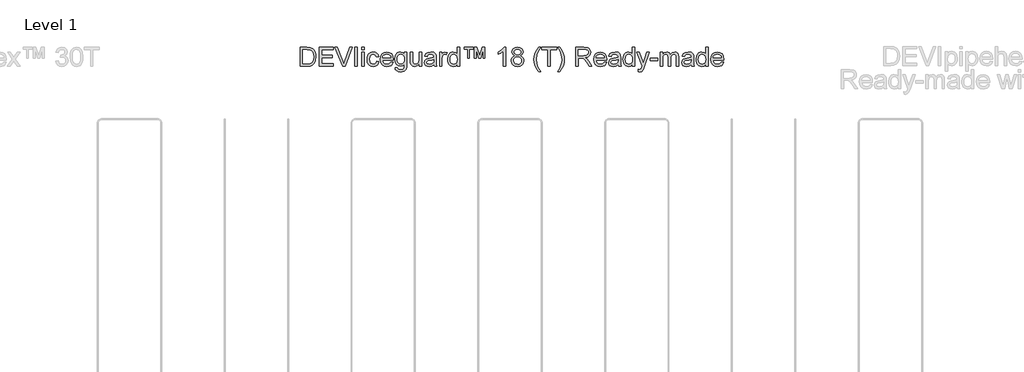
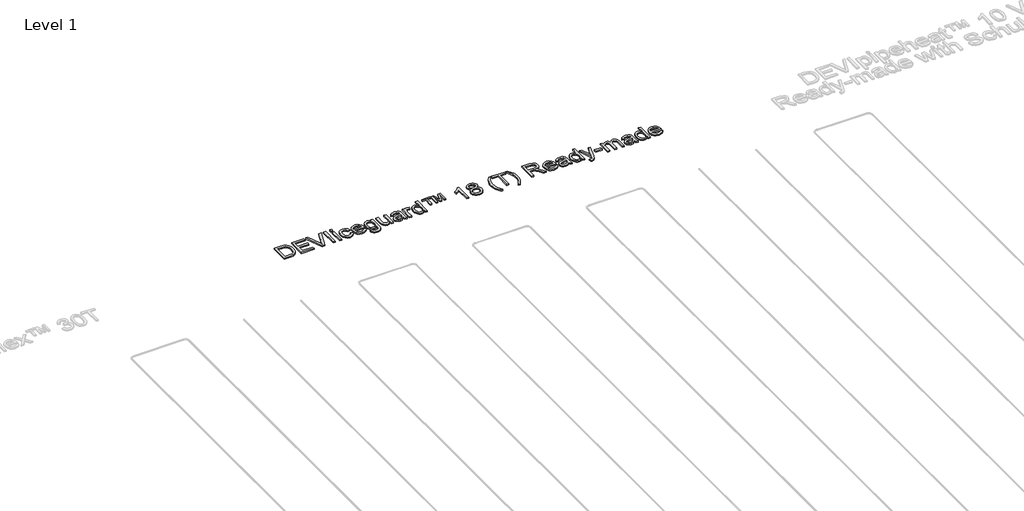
# One storey, part 24 of 26: 1 proxy.
"""IFC4 building model written with IfcOpenShell, lengths in millimetres."""

import ifcopenshell
import ifcopenshell.guid

model = None  # the IFC model being written
_history = None  # IfcOwnerHistory: only IFC2X3 demands one
_inside = {}  # id of a spatial element -> (the spatial element, [elements in it])
_under = {}  # id of a project, library or spatial element -> (it, [spatial elements below it])
_declared = {}  # id of a project -> (the project, [libraries it declares])
_typed = {}  # id of a type object -> (the type object, [elements of that type])
_made_of = {}  # id of a material, layer set ... -> (it, [elements and type objects made of it])


def new_model(schema):
    """Start an empty IFC model of exactly this schema.

    Asked for "IFC4X3", IfcOpenShell would pick the latest addendum, in which some entities
    have other attributes; the version numbers below select the first issue.
    IFC2X3 requires an IfcOwnerHistory on every rooted entity: one is made here for all.
    """
    global model, _history
    if schema == "IFC4X3":
        model = ifcopenshell.file(schema_version=(4, 3, 0, 0))
    else:
        model = ifcopenshell.file(schema=schema)
    _inside.clear()
    _under.clear()
    _declared.clear()
    _typed.clear()
    _made_of.clear()
    _history = None
    if model.schema == "IFC2X3":
        org = make("IfcOrganization", Name="unknown")
        user = make(
            "IfcPersonAndOrganization",
            ThePerson=make("IfcPerson", FamilyName="unknown"),
            TheOrganization=org,
        )
        app = make(
            "IfcApplication",
            ApplicationDeveloper=org,
            Version="unknown",
            ApplicationFullName="unknown",
            ApplicationIdentifier="unknown",
        )
        _history = make(
            "IfcOwnerHistory",
            OwningUser=user,
            OwningApplication=app,
            ChangeAction="ADDED",
            CreationDate=0,
        )
    return model


def make(cls, **values):
    """One entity of the class cls with the attributes given. An attribute that is None is left unset."""
    return model.create_entity(
        cls, **{name: value for name, value in values.items() if value is not None}
    )


def rooted(cls, **values):
    """An entity with a GlobalId (a new one), such as an element, a storey or a relation."""
    return make(cls, GlobalId=ifcopenshell.guid.new(), OwnerHistory=_history, **values)


def si_unit(unit_type, name, prefix=None):
    """IfcSIUnit, for example si_unit("LENGTHUNIT", "METRE", prefix="MILLI")."""
    return make("IfcSIUnit", UnitType=unit_type, Prefix=prefix, Name=name)


def assignment(units):
    """IfcUnitAssignment: the units of a project."""
    return None if units is None else make("IfcUnitAssignment", Units=units)


def point(xyz):
    """IfcCartesianPoint."""
    return None if xyz is None else make("IfcCartesianPoint", Coordinates=xyz)


def direction(xyz):
    """IfcDirection."""
    return None if xyz is None else make("IfcDirection", DirectionRatios=xyz)


def frame(location, z_axis=None, x_axis=None):
    """IfcAxis2Placement3D, a coordinate frame: its origin and axes. An axis left out is left unset."""
    return make(
        "IfcAxis2Placement3D",
        Location=point(location),
        Axis=direction(z_axis),
        RefDirection=direction(x_axis),
    )


def origin():
    """The frame at (0, 0, 0) with its axes left unset."""
    return frame((0.0, 0.0, 0.0))


def origin_with_axes():
    """The frame at (0, 0, 0) with the z axis (0, 0, 1) and the x axis (1, 0, 0) written out."""
    return frame((0.0, 0.0, 0.0), z_axis=(0.0, 0.0, 1.0), x_axis=(1.0, 0.0, 0.0))


def place(relative_to, where):
    """IfcLocalPlacement: puts the frame where relative to a parent placement (None: the world)."""
    return make(
        "IfcLocalPlacement", PlacementRelTo=relative_to, RelativePlacement=where
    )


def context(
    kind, dimensions, precision=None, world=None, true_north=None, identifier=None
):
    """IfcGeometricRepresentationContext, for example the 3D "Model" context."""
    return make(
        "IfcGeometricRepresentationContext",
        ContextIdentifier=identifier,
        ContextType=kind,
        CoordinateSpaceDimension=dimensions,
        Precision=precision,
        WorldCoordinateSystem=world,
        TrueNorth=true_north,
    )


def project(units=None, contexts=None):
    """IfcProject with its units and contexts."""
    return rooted(
        "IfcProject",
        Name="project",
        RepresentationContexts=contexts,
        UnitsInContext=assignment(units),
    )


def spatial(cls, under=None, at=None, **own):
    """A site, building, storey or space (cls), placed at a placement, below another one or the project."""
    s = rooted(cls, ObjectPlacement=at, **own)
    if under is not None:
        _under.setdefault(under.id(), (under, []))[1].append(s)
    return s


def polyline(points):
    """IfcPolyline through the points."""
    return make("IfcPolyline", Points=[point(p) for p in points])


def outline(outer, holes=None, kind="AREA"):
    """IfcArbitraryClosedProfileDef: a profile drawn as a closed curve; with holes, ...WithVoids."""
    if holes is None:
        return make("IfcArbitraryClosedProfileDef", ProfileType=kind, OuterCurve=outer)
    return make(
        "IfcArbitraryProfileDefWithVoids",
        ProfileType=kind,
        OuterCurve=outer,
        InnerCurves=holes,
    )


def extrude(swept, where, along, depth):
    """IfcExtrudedAreaSolid: the profile swept, set in the frame where, extruded along a direction by depth."""
    return make(
        "IfcExtrudedAreaSolid",
        SweptArea=swept,
        Position=where,
        ExtrudedDirection=direction(along),
        Depth=depth,
    )


def shape(context_of_items, identifier, shape_type, items):
    """IfcShapeRepresentation: the items that make up one representation, for example the "Body"."""
    return make(
        "IfcShapeRepresentation",
        ContextOfItems=context_of_items,
        RepresentationIdentifier=identifier,
        RepresentationType=shape_type,
        Items=items,
    )


def made_of(thing, what):
    """Note that an element or type object is made of a material, layer set ...; save() writes the relation."""
    if what is not None:
        _made_of.setdefault(what.id(), (what, []))[1].append(thing)
    return thing


def element(
    cls,
    number,
    at=None,
    inside=None,
    cuts=None,
    type_object=None,
    material=None,
    context=None,
    identifier="Body",
    shape_type=None,
    held_by="IfcProductDefinitionShape",
    body=None,
    shapes=None,
    **own,
):
    """One element of the class cls, such as IfcWall. Its Tag is "e" and its number.

    at: its placement. inside: the storey or other place that contains it. cuts: it is an
    opening in that element (IfcRelVoidsElement). A single representation is given by context,
    identifier, shape_type and body (its items); several are given by shapes. held_by: the class
    of the entity that holds the representations. save() writes the other relations.
    """
    e = rooted(cls, Tag="e%d" % number, ObjectPlacement=at, **own)
    if body is not None:
        shapes = [shape(context, identifier, shape_type, body)]
    if shapes is not None:
        e.Representation = make(held_by, Representations=shapes)
    if inside is not None:
        _inside.setdefault(inside.id(), (inside, []))[1].append(e)
    if cuts is not None:
        rooted(
            "IfcRelVoidsElement", RelatingBuildingElement=cuts, RelatedOpeningElement=e
        )
    if type_object is not None:
        _typed.setdefault(type_object.id(), (type_object, []))[1].append(e)
    return made_of(e, material)


def aggregate(whole, parts):
    """IfcRelAggregates: a whole, such as a stair, and the parts it consists of."""
    return rooted("IfcRelAggregates", RelatingObject=whole, RelatedObjects=parts)


def save(model, path):
    """Write the relations noted so far, then the file.

    IfcRelAggregates (storeys below a building ...), IfcRelContainedInSpatialStructure (elements
    in a storey), IfcRelDefinesByType, IfcRelAssociatesMaterial and IfcRelDeclares: one each for
    every whole, place, type object, material and project.
    """
    for whole, parts in _under.values():
        aggregate(whole, parts)
    for where, things in _inside.values():
        rooted(
            "IfcRelContainedInSpatialStructure",
            RelatedElements=things,
            RelatingStructure=where,
        )
    for kind, things in _typed.values():
        rooted("IfcRelDefinesByType", RelatedObjects=things, RelatingType=kind)
    for what, things in _made_of.values():
        rooted("IfcRelAssociatesMaterial", RelatedObjects=things, RelatingMaterial=what)
    for by, libraries in _declared.values():
        rooted("IfcRelDeclares", RelatingContext=by, RelatedDefinitions=libraries)
    model.write(path)


model = new_model("IFC4")

# Units and contexts
model_context = context("Model", 3, world=origin())
ifc_project = project(units=[si_unit("LENGTHUNIT", "METRE", prefix="MILLI")], contexts=[model_context])

# Site, building, storey
site = spatial("IfcSite", under=ifc_project)
building = spatial("IfcBuilding", under=site)
storey = spatial("IfcBuildingStorey", under=building, Name="Level 1", Elevation=0.0)

# Proxy
placement = place(None, origin())
element("IfcBuildingElementProxy", 1, Name="150mm", ObjectType="150mm", at=placement, inside=storey, context=model_context, shape_type="SweptSolid", body=[
    extrude(outline(polyline([(4508.0673037, 2479.2798), (4508.0673037, 2629.9642653), (4560.0490297, 2629.9642653), (4586.9412035, 2627.7937615), (4609.0876996, 2617.014819), (4619.5079571, 2605.5369008), (4626.9299764, 2591.2630794), (4631.3721515, 2574.4692663), (4632.8528765, 2555.431373), (4628.8429628, 2525.0259261), (4618.5422669, 2503.0817651), (4604.7834803, 2489.414949), (4586.7756566, 2481.854974), (4562.5506272, 2479.2798), (4508.0673037, 2479.2798)]), holes=[polyline([(4526.9028619, 2498.1153582), (4560.2329707, 2498.1153582), (4584.4763941, 2500.837685), (4598.45591, 2508.5264187), (4609.9154341, 2527.2332181), (4614.0173184, 2555.7256786), (4612.007763, 2576.253494), (4605.9790968, 2591.4102322), (4597.071754, 2601.8212926), (4586.4261687, 2608.1120748), (4559.7179359, 2611.1287071), (4526.9028619, 2611.1287071), (4526.9028619, 2498.1153582)])]), origin_with_axes(), (0.0, 0.0, 1.0), 10.0),
    extrude(outline(polyline([(4658.751769, 2479.2798), (4658.751769, 2629.9642653), (4767.0562284, 2629.9642653), (4767.0562284, 2611.1287071), (4677.5873271, 2611.1287071), (4677.5873271, 2566.3942565), (4762.3473388, 2566.3942565), (4762.3473388, 2547.5586983), (4677.5873271, 2547.5586983), (4677.5873271, 2498.1153582), (4769.4106731, 2498.1153582), (4769.4106731, 2479.2798), (4658.751769, 2479.2798)])), origin_with_axes(), (0.0, 0.0, 1.0), 10.0),
    extrude(outline(polyline([(4842.1777318, 2479.2798), (4782.2129666, 2629.9642653), (4802.3728999, 2629.9642653), (4842.5088256, 2521.4022885), (4850.6390177, 2496.9381358), (4858.6588452, 2521.4022885), (4898.9051354, 2629.9642653), (4919.0650688, 2629.9642653), (4861.6386893, 2479.2798), (4842.1777318, 2479.2798)])), origin_with_axes(), (0.0, 0.0, 1.0), 10.0),
    extrude(outline(polyline([(4938.9306965, 2479.2798), (4938.9306965, 2629.9642653), (4957.7662547, 2629.9642653), (4957.7662547, 2479.2798), (4938.9306965, 2479.2798)])), origin_with_axes(), (0.0, 0.0, 1.0), 10.0),
    extrude(outline(polyline([(4993.0829262, 2479.2798), (4993.0829262, 2589.9387042), (5011.9184843, 2589.9387042), (5011.9184843, 2479.2798), (4993.0829262, 2479.2798)])), origin_with_axes(), (0.0, 0.0, 1.0), 10.0),
    extrude(outline(polyline([(4993.0829262, 2611.1287071), (4993.0829262, 2629.9642653), (5011.9184843, 2629.9642653), (5011.9184843, 2611.1287071), (4993.0829262, 2611.1287071)])), origin_with_axes(), (0.0, 0.0, 1.0), 10.0),
    extrude(outline(polyline([(5110.8051646, 2519.3053611), (5129.6407228, 2516.9509163), (5124.3892073, 2500.19849), (5114.5207728, 2487.5387508), (5100.9643213, 2479.5787042), (5084.6487548, 2476.9253553), (5064.6129816, 2480.6271678), (5048.9458072, 2491.7326056), (5038.8336508, 2509.7542248), (5035.462932, 2534.2045819), (5036.9022703, 2550.9662053), (5041.2202853, 2565.4929456), (5048.4859547, 2577.2237827), (5058.7682564, 2585.5976966), (5071.0693106, 2590.6192859), (5084.3912374, 2592.293149), (5100.3067322, 2589.9938865), (5113.0308507, 2583.0960991), (5122.1589227, 2571.9676687), (5127.286278, 2556.9764774), (5108.4507199, 2554.6220327), (5099.7135225, 2568.7303072), (5084.5383902, 2573.4575908), (5072.3660947, 2571.1307372), (5062.7045938, 2564.1501763), (5056.4000161, 2552.1388292), (5054.2984902, 2534.7196167), (5056.3540308, 2517.0658795), (5062.5206528, 2505.0131456), (5072.0074097, 2498.0739715), (5084.0233554, 2495.7609134), (5093.7768268, 2497.2048503), (5101.7736617, 2501.5366608), (5107.5907957, 2508.8667095), (5110.8051646, 2519.3053611)])), origin_with_axes(), (0.0, 0.0, 1.0), 10.0),
    extrude(outline(polyline([(5223.5977844, 2512.2420268), (5242.0654605, 2509.887582), (5235.4113949, 2495.9724456), (5224.7934009, 2485.5705822), (5210.4506016, 2479.086662), (5192.6221204, 2476.9253553), (5170.5216095, 2480.654759), (5153.5162643, 2491.8429702), (5142.6729425, 2509.7634219), (5139.0585019, 2533.6895471), (5142.7097307, 2558.4204143), (5153.6634171, 2576.9156816), (5170.4388361, 2588.4487821), (5191.5552626, 2592.293149), (5212.0141, 2588.4579792), (5228.3618562, 2576.9524698), (5239.0810178, 2558.4939907), (5242.6540717, 2533.7999117), (5242.5437071, 2528.7231402), (5157.89406, 2528.7231402), (5161.1544142, 2514.6240627), (5168.7281848, 2504.2589875), (5179.6588786, 2497.8854319), (5192.9900024, 2495.7609134), (5211.4576785, 2499.6972508), (5223.5977844, 2512.2420268)]), holes=[polyline([(5157.89406, 2547.5586983), (5223.8185136, 2547.5586983), (5221.2709307, 2557.5099063), (5216.2769327, 2564.6284229), (5205.2956551, 2571.2502988), (5191.4816862, 2573.4575908), (5178.7851588, 2571.6963558), (5168.2867264, 2566.4126506), (5160.9888673, 2558.1766924), (5157.89406, 2547.5586983)])]), origin_with_axes(), (0.0, 0.0, 1.0), 10.0),
    extrude(outline(polyline([(5256.7807403, 2469.862021), (5275.6162985, 2467.5075762), (5281.7231396, 2457.5747623), (5300.0068748, 2453.3809076), (5319.2838913, 2458.1265853), (5328.4809412, 2471.4439135), (5329.7685282, 2493.4064687), (5316.5063823, 2482.8114672), (5300.3379686, 2479.2798), (5280.9183977, 2483.3908813), (5266.4376427, 2495.7241252), (5257.4291323, 2513.8055253), (5254.4262956, 2535.1610751), (5259.8157668, 2564.3525114), (5266.4100516, 2576.2029102), (5275.4139634, 2585.0090855), (5286.5194011, 2590.4721331), (5299.4182636, 2592.293149), (5316.2212737, 2588.1728706), (5329.7685282, 2575.8120356), (5329.7685282, 2589.9387042), (5348.6040863, 2589.9387042), (5348.6040863, 2494.39975), (5347.3164993, 2472.3406259), (5343.4537384, 2457.8138856), (5336.7996728, 2448.1799759), (5327.1381719, 2440.7993433), (5314.6807678, 2436.1088479), (5299.6389928, 2434.5453494), (5282.1140142, 2436.7480429), (5268.3138409, 2443.3561232), (5259.4616804, 2454.3879845), (5256.7807403, 2469.862021)]), holes=[polyline([(5273.2618537, 2536.4486621), (5275.2714091, 2519.1720039), (5281.3000753, 2507.294014), (5290.363768, 2500.4100221), (5301.4784027, 2498.1153582), (5312.5102641, 2500.3962266), (5321.619942, 2507.2388317), (5327.7313816, 2518.9650703), (5329.7685282, 2535.8968391), (5327.6716008, 2552.2262012), (5321.3808187, 2563.9846294), (5312.1377836, 2571.0893505), (5301.1840972, 2573.4575908), (5290.4281473, 2571.1261387), (5281.4104399, 2564.1317822), (5275.2990003, 2552.5480979), (5273.2618537, 2536.4486621)])]), origin_with_axes(), (0.0, 0.0, 1.0), 10.0),
    extrude(outline(polyline([(5447.4907666, 2479.2798), (5447.4907666, 2498.2992992), (5432.7386986, 2482.2688413), (5413.4984703, 2476.9253553), (5395.7849522, 2480.6777516), (5383.57127, 2490.0955307), (5377.9610695, 2503.9646819), (5376.8574236, 2521.4758649), (5376.8574236, 2589.9387042), (5395.6929817, 2589.9387042), (5395.6929817, 2530.341821), (5396.8334159, 2511.1383808), (5404.2830263, 2499.8627977), (5418.3177244, 2495.7609134), (5434.0446797, 2499.9547682), (5444.4373461, 2511.3775041), (5447.4907666, 2532.3651719), (5447.4907666, 2589.9387042), (5466.3263248, 2589.9387042), (5466.3263248, 2479.2798), (5447.4907666, 2479.2798)])), origin_with_axes(), (0.0, 0.0, 1.0), 10.0),
    extrude(outline(polyline([(5562.8585603, 2493.4064687), (5544.5932193, 2480.6409634), (5524.4148918, 2476.9253553), (5508.674141, 2479.1602384), (5497.0628655, 2485.8648878), (5489.9029622, 2496.046022), (5487.5163277, 2508.7103597), (5491.1215713, 2523.6095805), (5500.5945326, 2534.4253111), (5513.7831022, 2540.6057286), (5530.0802745, 2543.43842), (5562.7481957, 2549.9131431), (5562.8585603, 2554.1069979), (5561.5617763, 2562.5131015), (5557.6714242, 2568.0129373), (5548.971015, 2572.0964274), (5536.8493033, 2573.4575908), (5517.7930159, 2569.8339532), (5508.7063306, 2556.9764774), (5489.8707725, 2559.3309222), (5498.0193587, 2577.725022), (5514.4268957, 2588.5039644), (5539.2773244, 2592.293149), (5562.1044022, 2588.9454228), (5574.9986662, 2580.5393192), (5580.7744135, 2567.7554199), (5581.6941185, 2551.2743065), (5581.6941185, 2527.8402234), (5582.6506117, 2495.1171199), (5586.403008, 2479.2798), (5567.5674499, 2479.2798), (5562.8585603, 2493.4064687)]), holes=[polyline([(5562.8585603, 2531.077585), (5532.4715075, 2525.3018376), (5516.2663056, 2522.2484171), (5508.9270598, 2517.2820101), (5506.3518859, 2510.0347348), (5511.9620863, 2499.8444036), (5528.4248056, 2495.7609134), (5547.4810929, 2500.2674679), (5559.7683516, 2511.175169), (5562.7481957, 2525.743296), (5562.8585603, 2531.077585)])]), origin_with_axes(), (0.0, 0.0, 1.0), 10.0),
    extrude(outline(polyline([(5607.5930109, 2479.2798), (5607.5930109, 2589.9387042), (5624.0741243, 2589.9387042), (5624.0741243, 2573.5679554), (5635.7727718, 2588.6511172), (5647.5449956, 2592.293149), (5666.4541302, 2586.4806134), (5660.163348, 2569.5948299), (5646.9195962, 2573.4575908), (5636.2694125, 2569.7419827), (5629.4819896, 2559.4412868), (5626.4285691, 2537.4419435), (5626.4285691, 2479.2798), (5607.5930109, 2479.2798)])), origin_with_axes(), (0.0, 0.0, 1.0), 10.0),
    extrude(outline(polyline([(5746.5052523, 2479.2798), (5746.5052523, 2497.0485004), (5734.0432497, 2481.9561416), (5716.8171753, 2476.9253553), (5704.6402813, 2478.7463711), (5693.4934568, 2484.2094188), (5684.0572836, 2492.9328206), (5677.0123434, 2504.534899), (5672.6253506, 2518.5466045), (5671.1630197, 2534.4988875), (5676.5524909, 2564.4812701), (5683.2847314, 2576.3730556), (5692.7025105, 2585.1194501), (5704.0930568, 2590.4997242), (5716.7435989, 2592.293149), (5734.1076291, 2587.1611951), (5746.5052523, 2573.8254728), (5746.5052523, 2629.9642653), (5765.3408105, 2629.9642653), (5765.3408105, 2479.2798), (5746.5052523, 2479.2798)]), holes=[polyline([(5689.9985779, 2534.5724639), (5692.1230964, 2517.534929), (5698.4966519, 2505.4178158), (5707.7580812, 2498.175139), (5718.5462207, 2495.7609134), (5729.3297617, 2498.0647744), (5738.3566661, 2504.9763574), (5744.4681058, 2516.6244211), (5746.5052523, 2533.1377241), (5744.4313176, 2551.191533), (5738.2095133, 2563.7087179), (5728.9526826, 2571.0203726), (5717.7736685, 2573.4575908), (5706.8751644, 2571.1169416), (5697.9448289, 2564.094994), (5691.9851406, 2552.0330631), (5689.9985779, 2534.5724639)])]), origin_with_axes(), (0.0, 0.0, 1.0), 10.0),
    extrude(outline(polyline([(5828.9108192, 2545.2042536), (5828.9108192, 2615.8375967), (5800.657482, 2615.8375967), (5800.657482, 2629.9642653), (5871.2908251, 2629.9642653), (5871.2908251, 2615.8375967), (5843.0374878, 2615.8375967), (5843.0374878, 2545.2042536), (5828.9108192, 2545.2042536)])), origin_with_axes(), (0.0, 0.0, 1.0), 10.0),
    extrude(outline(polyline([(5880.7086042, 2545.2042536), (5880.7086042, 2629.9642653), (5901.6043015, 2629.9642653), (5923.1621864, 2561.9060962), (5944.4625539, 2629.9642653), (5965.4686158, 2629.9642653), (5965.4686158, 2545.2042536), (5951.3419472, 2545.2042536), (5951.3419472, 2614.8075271), (5930.1519443, 2545.2042536), (5916.0252757, 2545.2042536), (5894.8352728, 2615.8375967), (5894.8352728, 2545.2042536), (5880.7086042, 2545.2042536)])), origin_with_axes(), (0.0, 0.0, 1.0), 10.0),
    extrude(outline(polyline([(6127.9253049, 2479.2798), (6109.0897468, 2479.2798), (6109.0897468, 2596.7077329), (6091.24747, 2583.99741), (6071.4186305, 2574.4876604), (6071.4186305, 2592.293149), (6099.0281742, 2609.9146965), (6115.7851991, 2629.9642653), (6127.9253049, 2629.9642653), (6127.9253049, 2479.2798)])), origin_with_axes(), (0.0, 0.0, 1.0), 10.0),
    extrude(outline(polyline([(6200.1037524, 2562.2739782), (6182.9420573, 2573.9726256), (6177.3686451, 2592.1827844), (6180.4036715, 2606.9072612), (6189.5087509, 2619.0749582), (6203.6630107, 2627.2419385), (6221.8455783, 2629.9642653), (6240.1385105, 2627.1775592), (6254.4767113, 2618.8174408), (6263.7473375, 2606.4566058), (6266.8375463, 2591.6677496), (6261.3377105, 2573.9174433), (6244.654262, 2562.2739782), (6256.2471434, 2556.3004943), (6264.6854366, 2547.503516), (6269.831186, 2536.3061078), (6271.5464358, 2523.1313339), (6268.1435274, 2505.1235102), (6257.934802, 2490.2426835), (6242.1710585, 2480.2546873), (6222.1030957, 2476.9253553), (6202.0351328, 2480.2684829), (6186.2713893, 2490.2978658), (6176.062664, 2505.3212468), (6172.6597555, 2523.6463687), (6174.4439832, 2537.3315789), (6179.7966662, 2548.5887679), (6188.4418931, 2557.0316597), (6200.1037524, 2562.2739782)]), holes=[polyline([(6196.2042032, 2591.6309614), (6197.8734678, 2583.4087988), (6202.8812614, 2576.8421052), (6211.0804314, 2572.5378858), (6222.3238249, 2571.103146), (6233.3051024, 2572.5286888), (6241.3801122, 2576.805317), (6246.3465192, 2583.1512814), (6248.0019881, 2590.7848328), (6246.2913369, 2598.7080913), (6241.159383, 2605.2609893), (6232.9740086, 2609.6617777), (6222.1030957, 2611.1287071), (6211.1632048, 2609.6939673), (6202.991626, 2605.389748), (6197.9010589, 2599.0805718), (6196.2042032, 2591.6309614)]), polyline([(6191.4953137, 2524.3085563), (6194.6407047, 2510.1267053), (6205.7691351, 2499.5133098), (6222.2502485, 2495.7609134), (6235.070936, 2497.7336806), (6244.6910502, 2503.6519822), (6250.7059208, 2512.6145073), (6252.7108777, 2523.7199451), (6250.6415415, 2535.0139223), (6244.4335328, 2544.174184), (6234.5926894, 2550.2442369), (6221.6248491, 2552.2675879), (6208.983504, 2550.2718281), (6199.4599589, 2544.2845486), (6193.486475, 2535.2990309), (6191.4953137, 2524.3085563)])]), origin_with_axes(), (0.0, 0.0, 1.0), 10.0),
    extrude(outline(polyline([(6389.2686743, 2436.8997942), (6374.6729561, 2457.3816243), (6362.5236532, 2481.0824218), (6354.3290818, 2506.8525556), (6351.597558, 2533.5423943), (6353.6393031, 2556.9488863), (6359.7645383, 2579.3437027), (6371.9230382, 2604.7091663), (6389.2686743, 2629.9642653), (6403.3953429, 2629.9642653), (6385.7737953, 2600.1290355), (6375.1787939, 2571.2135106), (6370.4331161, 2533.4320297), (6372.4932553, 2509.2851753), (6378.6736728, 2485.1475179), (6388.9743687, 2461.0190575), (6403.3953429, 2436.8997942), (6389.2686743, 2436.8997942)])), origin_with_axes(), (0.0, 0.0, 1.0), 10.0),
    extrude(outline(polyline([(6462.2564621, 2479.2798), (6462.2564621, 2611.1287071), (6412.813122, 2611.1287071), (6412.813122, 2629.9642653), (6530.5353604, 2629.9642653), (6530.5353604, 2611.1287071), (6481.0920203, 2611.1287071), (6481.0920203, 2479.2798), (6462.2564621, 2479.2798)])), origin_with_axes(), (0.0, 0.0, 1.0), 10.0),
    extrude(outline(polyline([(6554.0798081, 2436.8997942), (6539.9531395, 2436.8997942), (6554.3741137, 2461.0190575), (6564.6748096, 2485.1475179), (6570.8552271, 2509.2851753), (6572.9153663, 2533.4320297), (6568.1696885, 2570.8824168), (6557.6850517, 2599.8347299), (6539.9531395, 2629.9642653), (6554.0798081, 2629.9642653), (6571.4254442, 2604.7091663), (6583.5839441, 2579.3437027), (6589.7091794, 2556.9488863), (6591.7509244, 2533.5423943), (6589.005605, 2506.8525556), (6580.7696469, 2481.0824218), (6568.6065484, 2457.3816243), (6554.0798081, 2436.8997942)])), origin_with_axes(), (0.0, 0.0, 1.0), 10.0),
    extrude(outline(polyline([(6681.2198257, 2479.2798), (6681.2198257, 2629.9642653), (6746.1509978, 2629.9642653), (6776.2989273, 2625.8991692), (6785.5787506, 2620.2705747), (6792.7800407, 2611.5149832), (6797.4015583, 2600.6578658), (6798.9420641, 2588.7246936), (6796.3898828, 2573.8806551), (6788.7333387, 2561.5750024), (6775.7425058, 2552.5526964), (6757.1874577, 2547.5586983), (6767.8928237, 2539.5020827), (6783.1599265, 2520.1147015), (6808.2862668, 2479.2798), (6786.3972881, 2479.2798), (6766.7891777, 2510.5129814), (6752.6257209, 2531.1879496), (6742.674513, 2540.9552165), (6733.7165864, 2544.542066), (6722.7904911, 2545.2042536), (6700.0553838, 2545.2042536), (6700.0553838, 2479.2798), (6681.2198257, 2479.2798)]), holes=[polyline([(6700.0553838, 2564.0398117), (6742.2146605, 2564.0398117), (6763.7173631, 2566.7069562), (6775.9310453, 2575.2418185), (6780.106506, 2588.0257178), (6778.1153447, 2597.2135706), (6772.1418608, 2604.6171958), (6761.8641575, 2609.5008293), (6746.9603382, 2611.1287071), (6700.0553838, 2611.1287071), (6700.0553838, 2564.0398117)])]), origin_with_axes(), (0.0, 0.0, 1.0), 10.0),
    extrude(outline(polyline([(6907.0257943, 2512.2420268), (6925.4934705, 2509.887582), (6918.8394049, 2495.9724456), (6908.2214108, 2485.5705822), (6893.8786115, 2479.086662), (6876.0501303, 2476.9253553), (6853.9496194, 2480.654759), (6836.9442742, 2491.8429702), (6826.1009524, 2509.7634219), (6822.4865118, 2533.6895471), (6826.1377406, 2558.4204143), (6837.091427, 2576.9156816), (6853.866846, 2588.4487821), (6874.9832725, 2592.293149), (6895.44211, 2588.4579792), (6911.7898661, 2576.9524698), (6922.5090278, 2558.4939907), (6926.0820816, 2533.7999117), (6925.971717, 2528.7231402), (6841.32207, 2528.7231402), (6844.5824241, 2514.6240627), (6852.1561947, 2504.2589875), (6863.0868885, 2497.8854319), (6876.4180123, 2495.7609134), (6894.8856885, 2499.6972508), (6907.0257943, 2512.2420268)]), holes=[polyline([(6841.32207, 2547.5586983), (6907.2465235, 2547.5586983), (6904.6989407, 2557.5099063), (6899.7049426, 2564.6284229), (6888.723665, 2571.2502988), (6874.9096961, 2573.4575908), (6862.2131688, 2571.6963558), (6851.7147363, 2566.4126506), (6844.4168772, 2558.1766924), (6841.32207, 2547.5586983)])]), origin_with_axes(), (0.0, 0.0, 1.0), 10.0),
    extrude(outline(polyline([(7015.5509829, 2493.4064687), (6997.2856418, 2480.6409634), (6977.1073144, 2476.9253553), (6961.3665635, 2479.1602384), (6949.755288, 2485.8648878), (6942.5953847, 2496.046022), (6940.2087503, 2508.7103597), (6943.8139938, 2523.6095805), (6953.2869552, 2534.4253111), (6966.4755247, 2540.6057286), (6982.7726971, 2543.43842), (7015.4406183, 2549.9131431), (7015.5509829, 2554.1069979), (7014.2541988, 2562.5131015), (7010.3638467, 2568.0129373), (7001.6634376, 2572.0964274), (6989.5417258, 2573.4575908), (6970.4854385, 2569.8339532), (6961.3987532, 2556.9764774), (6942.563195, 2559.3309222), (6950.7117812, 2577.725022), (6967.1193182, 2588.5039644), (6991.969747, 2592.293149), (7014.7968248, 2588.9454228), (7027.6910887, 2580.5393192), (7033.466836, 2567.7554199), (7034.386541, 2551.2743065), (7034.386541, 2527.8402234), (7035.3430342, 2495.1171199), (7039.0954306, 2479.2798), (7020.2598724, 2479.2798), (7015.5509829, 2493.4064687)]), holes=[polyline([(7015.5509829, 2531.077585), (6985.1639301, 2525.3018376), (6968.9587282, 2522.2484171), (6961.6194824, 2517.2820101), (6959.0443084, 2510.0347348), (6964.6545088, 2499.8444036), (6981.1172281, 2495.7609134), (7000.1735155, 2500.2674679), (7012.4607741, 2511.175169), (7015.4406183, 2525.743296), (7015.5509829, 2531.077585)])]), origin_with_axes(), (0.0, 0.0, 1.0), 10.0),
    extrude(outline(polyline([(7128.5643318, 2479.2798), (7128.5643318, 2497.0485004), (7116.1023292, 2481.9561416), (7098.8762548, 2476.9253553), (7086.6993607, 2478.7463711), (7075.5525363, 2484.2094188), (7066.1163631, 2492.9328206), (7059.0714229, 2504.534899), (7054.6844301, 2518.5466045), (7053.2220992, 2534.4988875), (7058.6115704, 2564.4812701), (7065.3438109, 2576.3730556), (7074.76159, 2585.1194501), (7086.1521363, 2590.4997242), (7098.8026784, 2592.293149), (7116.1667086, 2587.1611951), (7128.5643318, 2573.8254728), (7128.5643318, 2629.9642653), (7147.3998899, 2629.9642653), (7147.3998899, 2479.2798), (7128.5643318, 2479.2798)]), holes=[polyline([(7072.0576573, 2534.5724639), (7074.1821759, 2517.534929), (7080.5557314, 2505.4178158), (7089.8171607, 2498.175139), (7100.6053002, 2495.7609134), (7111.3888411, 2498.0647744), (7120.4157456, 2504.9763574), (7126.5271852, 2516.6244211), (7128.5643318, 2533.1377241), (7126.490397, 2551.191533), (7120.2685928, 2563.7087179), (7111.0117621, 2571.0203726), (7099.832748, 2573.4575908), (7088.9342439, 2571.1169416), (7080.0039084, 2564.094994), (7074.0442201, 2552.0330631), (7072.0576573, 2534.5724639)])]), origin_with_axes(), (0.0, 0.0, 1.0), 10.0),
    extrude(outline(polyline([(7175.6532272, 2436.8997942), (7173.2987824, 2455.0363766), (7182.8637143, 2453.3809076), (7191.8032468, 2455.4594409), (7197.2846885, 2461.2535823), (7202.4350364, 2475.1227335), (7203.9065644, 2479.6844702), (7163.8810033, 2589.9387042), (7183.7466311, 2589.9387042), (7204.9734222, 2528.502411), (7212.3678503, 2503.9278937), (7219.7622784, 2525.6329314), (7241.5776807, 2589.9387042), (7261.2961557, 2589.9387042), (7222.7789108, 2476.6310497), (7212.7725205, 2452.0565324), (7201.8464252, 2438.7759924), (7187.1679336, 2434.5453494), (7175.6532272, 2436.8997942)])), origin_with_axes(), (0.0, 0.0, 1.0), 10.0),
    extrude(outline(polyline([(7267.4765732, 2524.0142507), (7267.4765732, 2542.8498088), (7326.3376924, 2542.8498088), (7326.3376924, 2524.0142507), (7267.4765732, 2524.0142507)])), origin_with_axes(), (0.0, 0.0, 1.0), 10.0),
    extrude(outline(polyline([(7347.5276953, 2479.2798), (7347.5276953, 2589.9387042), (7366.3632535, 2589.9387042), (7366.3632535, 2571.7285454), (7379.3126997, 2586.6461603), (7397.7435877, 2592.293149), (7408.2190275, 2590.8538107), (7416.615934, 2586.5357957), (7426.9902063, 2570.4041702), (7441.687092, 2586.8209043), (7460.2467386, 2592.293149), (7474.4055969, 2590.0168791), (7484.8764382, 2583.1880696), (7491.3465628, 2571.6227794), (7493.503271, 2555.1370674), (7493.503271, 2479.2798), (7474.6677129, 2479.2798), (7474.6677129, 2547.0436636), (7472.9202734, 2562.7706188), (7466.5927031, 2570.5145348), (7455.8321547, 2573.4575908), (7445.6280279, 2571.5721956), (7437.3092962, 2565.9160099), (7431.7772707, 2556.1027577), (7429.9332622, 2541.7461628), (7429.9332622, 2479.2798), (7411.0977041, 2479.2798), (7411.0977041, 2549.1405909), (7406.7383024, 2567.3875379), (7400.9855477, 2571.9400776), (7392.4460869, 2573.4575908), (7378.5033593, 2569.4108889), (7369.232733, 2557.5650886), (7366.3632535, 2535.0874987), (7366.3632535, 2479.2798), (7347.5276953, 2479.2798)])), origin_with_axes(), (0.0, 0.0, 1.0), 10.0),
    extrude(outline(polyline([(7592.3899513, 2493.4064687), (7574.1246103, 2480.6409634), (7553.9462828, 2476.9253553), (7538.2055319, 2479.1602384), (7526.5942565, 2485.8648878), (7519.4343531, 2496.046022), (7517.0477187, 2508.7103597), (7520.6529623, 2523.6095805), (7530.1259236, 2534.4253111), (7543.3144932, 2540.6057286), (7559.6116655, 2543.43842), (7592.2795867, 2549.9131431), (7592.3899513, 2554.1069979), (7591.0931673, 2562.5131015), (7587.2028152, 2568.0129373), (7578.502406, 2572.0964274), (7566.3806943, 2573.4575908), (7547.3244069, 2569.8339532), (7538.2377216, 2556.9764774), (7519.4021635, 2559.3309222), (7527.5507497, 2577.725022), (7543.9582866, 2588.5039644), (7568.8087154, 2592.293149), (7591.6357932, 2588.9454228), (7604.5300572, 2580.5393192), (7610.3058045, 2567.7554199), (7611.2255095, 2551.2743065), (7611.2255095, 2527.8402234), (7612.1820027, 2495.1171199), (7615.934399, 2479.2798), (7597.0988408, 2479.2798), (7592.3899513, 2493.4064687)]), holes=[polyline([(7592.3899513, 2531.077585), (7562.0028985, 2525.3018376), (7545.7976966, 2522.2484171), (7538.4584508, 2517.2820101), (7535.8832769, 2510.0347348), (7541.4934773, 2499.8444036), (7557.9561966, 2495.7609134), (7577.0124839, 2500.2674679), (7589.2997426, 2511.175169), (7592.2795867, 2525.743296), (7592.3899513, 2531.077585)])]), origin_with_axes(), (0.0, 0.0, 1.0), 10.0),
    extrude(outline(polyline([(7705.4033002, 2479.2798), (7705.4033002, 2497.0485004), (7692.9412976, 2481.9561416), (7675.7152232, 2476.9253553), (7663.5383292, 2478.7463711), (7652.3915047, 2484.2094188), (7642.9553315, 2492.9328206), (7635.9103913, 2504.534899), (7631.5233985, 2518.5466045), (7630.0610676, 2534.4988875), (7635.4505388, 2564.4812701), (7642.1827794, 2576.3730556), (7651.6005584, 2585.1194501), (7662.9911047, 2590.4997242), (7675.6416468, 2592.293149), (7693.005677, 2587.1611951), (7705.4033002, 2573.8254728), (7705.4033002, 2629.9642653), (7724.2388584, 2629.9642653), (7724.2388584, 2479.2798), (7705.4033002, 2479.2798)]), holes=[polyline([(7648.8966258, 2534.5724639), (7651.0211443, 2517.534929), (7657.3946999, 2505.4178158), (7666.6561291, 2498.175139), (7677.4442686, 2495.7609134), (7688.2278096, 2498.0647744), (7697.254714, 2504.9763574), (7703.3661537, 2516.6244211), (7705.4033002, 2533.1377241), (7703.3293655, 2551.191533), (7697.1075612, 2563.7087179), (7687.8507305, 2571.0203726), (7676.6717164, 2573.4575908), (7665.7732123, 2571.1169416), (7656.8428769, 2564.094994), (7650.8831885, 2552.0330631), (7648.8966258, 2534.5724639)])]), origin_with_axes(), (0.0, 0.0, 1.0), 10.0),
    extrude(outline(polyline([(7829.9681438, 2512.2420268), (7848.43582, 2509.887582), (7841.7817544, 2495.9724456), (7831.1637603, 2485.5705822), (7816.820961, 2479.086662), (7798.9924798, 2476.9253553), (7776.8919689, 2480.654759), (7759.8866237, 2491.8429702), (7749.0433019, 2509.7634219), (7745.4288613, 2533.6895471), (7749.0800901, 2558.4204143), (7760.0337765, 2576.9156816), (7776.8091955, 2588.4487821), (7797.925622, 2592.293149), (7818.3844595, 2588.4579792), (7834.7322156, 2576.9524698), (7845.4513773, 2558.4939907), (7849.0244311, 2533.7999117), (7848.9140665, 2528.7231402), (7764.2644195, 2528.7231402), (7767.5247736, 2514.6240627), (7775.0985442, 2504.2589875), (7786.029238, 2497.8854319), (7799.3603618, 2495.7609134), (7817.828038, 2499.6972508), (7829.9681438, 2512.2420268)]), holes=[polyline([(7764.2644195, 2547.5586983), (7830.188873, 2547.5586983), (7827.6412902, 2557.5099063), (7822.6472921, 2564.6284229), (7811.6660145, 2571.2502988), (7797.8520456, 2573.4575908), (7785.1555183, 2571.6963558), (7774.6570858, 2566.4126506), (7767.3592267, 2558.1766924), (7764.2644195, 2547.5586983)])]), origin_with_axes(), (0.0, 0.0, 1.0), 10.0),
])

save(model, "model.ifc")
